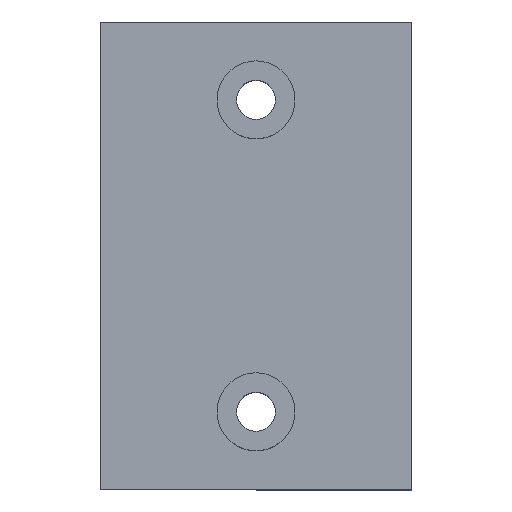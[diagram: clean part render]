
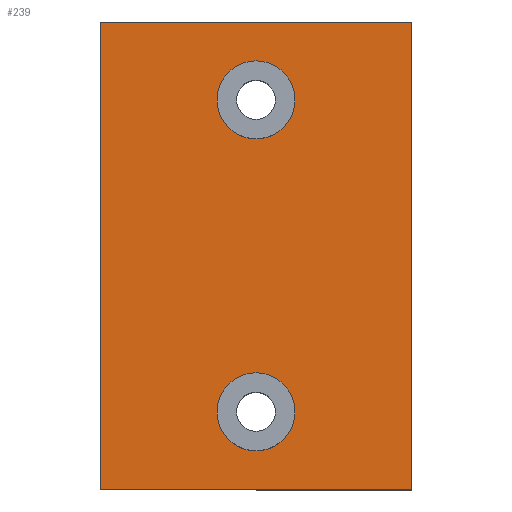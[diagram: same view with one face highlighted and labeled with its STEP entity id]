
A CAD part, top view. The second image highlights one B-rep face of the part: STEP entity #239.
In plain terms, the highlighted planar face has unit normal (0, 0, 1).
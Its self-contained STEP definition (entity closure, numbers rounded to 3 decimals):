
#50 = VERTEX_POINT('',#51);
#51 = CARTESIAN_POINT('',(32.,0.,3.));
#58 = PLANE('',#59);
#59 = AXIS2_PLACEMENT_3D('',#60,#61,#62);
#60 = CARTESIAN_POINT('',(32.,0.,0.));
#61 = DIRECTION('',(0.,1.,0.));
#62 = DIRECTION('',(0.,0.,1.));
#70 = PLANE('',#71);
#71 = AXIS2_PLACEMENT_3D('',#72,#73,#74);
#72 = CARTESIAN_POINT('',(32.,0.,0.));
#73 = DIRECTION('',(-1.,0.,0.));
#74 = DIRECTION('',(0.,0.,1.));
#111 = VERTEX_POINT('',#112);
#112 = CARTESIAN_POINT('',(0.,0.,3.));
#126 = PLANE('',#127);
#127 = AXIS2_PLACEMENT_3D('',#128,#129,#130);
#128 = CARTESIAN_POINT('',(0.,0.,0.));
#129 = DIRECTION('',(-1.,0.,0.));
#130 = DIRECTION('',(0.,0.,1.));
#138 = EDGE_CURVE('',#50,#111,#139,.T.);
#139 = SURFACE_CURVE('',#140,(#144,#151),.PCURVE_S1.);
#140 = LINE('',#141,#142);
#141 = CARTESIAN_POINT('',(32.,0.,3.));
#142 = VECTOR('',#143,1.);
#143 = DIRECTION('',(-1.,0.,0.));
#144 = PCURVE('',#58,#145);
#145 = DEFINITIONAL_REPRESENTATION('',(#146),#150);
#146 = LINE('',#147,#148);
#147 = CARTESIAN_POINT('',(3.,0.));
#148 = VECTOR('',#149,1.);
#149 = DIRECTION('',(0.,-1.));
#150 = ( GEOMETRIC_REPRESENTATION_CONTEXT(2) 
PARAMETRIC_REPRESENTATION_CONTEXT() REPRESENTATION_CONTEXT('2D SPACE',''
  ) );
#151 = PCURVE('',#152,#157);
#152 = PLANE('',#153);
#153 = AXIS2_PLACEMENT_3D('',#154,#155,#156);
#154 = CARTESIAN_POINT('',(32.,0.,3.));
#155 = DIRECTION('',(0.,0.,1.));
#156 = DIRECTION('',(0.,1.,0.));
#157 = DEFINITIONAL_REPRESENTATION('',(#158),#162);
#158 = LINE('',#159,#160);
#159 = CARTESIAN_POINT('',(0.,0.));
#160 = VECTOR('',#161,1.);
#161 = DIRECTION('',(0.,1.));
#162 = ( GEOMETRIC_REPRESENTATION_CONTEXT(2) 
PARAMETRIC_REPRESENTATION_CONTEXT() REPRESENTATION_CONTEXT('2D SPACE',''
  ) );
#191 = EDGE_CURVE('',#50,#192,#194,.T.);
#192 = VERTEX_POINT('',#193);
#193 = CARTESIAN_POINT('',(32.,48.,3.));
#194 = SURFACE_CURVE('',#195,(#199,#206),.PCURVE_S1.);
#195 = LINE('',#196,#197);
#196 = CARTESIAN_POINT('',(32.,0.,3.));
#197 = VECTOR('',#198,1.);
#198 = DIRECTION('',(0.,1.,0.));
#199 = PCURVE('',#70,#200);
#200 = DEFINITIONAL_REPRESENTATION('',(#201),#205);
#201 = LINE('',#202,#203);
#202 = CARTESIAN_POINT('',(3.,0.));
#203 = VECTOR('',#204,1.);
#204 = DIRECTION('',(0.,1.));
#205 = ( GEOMETRIC_REPRESENTATION_CONTEXT(2) 
PARAMETRIC_REPRESENTATION_CONTEXT() REPRESENTATION_CONTEXT('2D SPACE',''
  ) );
#206 = PCURVE('',#152,#207);
#207 = DEFINITIONAL_REPRESENTATION('',(#208),#212);
#208 = LINE('',#209,#210);
#209 = CARTESIAN_POINT('',(0.,0.));
#210 = VECTOR('',#211,1.);
#211 = DIRECTION('',(1.,0.));
#212 = ( GEOMETRIC_REPRESENTATION_CONTEXT(2) 
PARAMETRIC_REPRESENTATION_CONTEXT() REPRESENTATION_CONTEXT('2D SPACE',''
  ) );
#228 = PLANE('',#229);
#229 = AXIS2_PLACEMENT_3D('',#230,#231,#232);
#230 = CARTESIAN_POINT('',(32.,48.,0.));
#231 = DIRECTION('',(0.,1.,0.));
#232 = DIRECTION('',(0.,0.,1.));
#239 = ADVANCED_FACE('',(#240,#288,#319),#152,.T.);
#240 = FACE_BOUND('',#241,.T.);
#241 = EDGE_LOOP('',(#242,#243,#244,#267));
#242 = ORIENTED_EDGE('',*,*,#138,.F.);
#243 = ORIENTED_EDGE('',*,*,#191,.T.);
#244 = ORIENTED_EDGE('',*,*,#245,.T.);
#245 = EDGE_CURVE('',#192,#246,#248,.T.);
#246 = VERTEX_POINT('',#247);
#247 = CARTESIAN_POINT('',(0.,48.,3.));
#248 = SURFACE_CURVE('',#249,(#253,#260),.PCURVE_S1.);
#249 = LINE('',#250,#251);
#250 = CARTESIAN_POINT('',(32.,48.,3.));
#251 = VECTOR('',#252,1.);
#252 = DIRECTION('',(-1.,0.,0.));
#253 = PCURVE('',#152,#254);
#254 = DEFINITIONAL_REPRESENTATION('',(#255),#259);
#255 = LINE('',#256,#257);
#256 = CARTESIAN_POINT('',(48.,0.));
#257 = VECTOR('',#258,1.);
#258 = DIRECTION('',(0.,1.));
#259 = ( GEOMETRIC_REPRESENTATION_CONTEXT(2) 
PARAMETRIC_REPRESENTATION_CONTEXT() REPRESENTATION_CONTEXT('2D SPACE',''
  ) );
#260 = PCURVE('',#228,#261);
#261 = DEFINITIONAL_REPRESENTATION('',(#262),#266);
#262 = LINE('',#263,#264);
#263 = CARTESIAN_POINT('',(3.,0.));
#264 = VECTOR('',#265,1.);
#265 = DIRECTION('',(0.,-1.));
#266 = ( GEOMETRIC_REPRESENTATION_CONTEXT(2) 
PARAMETRIC_REPRESENTATION_CONTEXT() REPRESENTATION_CONTEXT('2D SPACE',''
  ) );
#267 = ORIENTED_EDGE('',*,*,#268,.F.);
#268 = EDGE_CURVE('',#111,#246,#269,.T.);
#269 = SURFACE_CURVE('',#270,(#274,#281),.PCURVE_S1.);
#270 = LINE('',#271,#272);
#271 = CARTESIAN_POINT('',(0.,0.,3.));
#272 = VECTOR('',#273,1.);
#273 = DIRECTION('',(0.,1.,0.));
#274 = PCURVE('',#152,#275);
#275 = DEFINITIONAL_REPRESENTATION('',(#276),#280);
#276 = LINE('',#277,#278);
#277 = CARTESIAN_POINT('',(0.,32.));
#278 = VECTOR('',#279,1.);
#279 = DIRECTION('',(1.,0.));
#280 = ( GEOMETRIC_REPRESENTATION_CONTEXT(2) 
PARAMETRIC_REPRESENTATION_CONTEXT() REPRESENTATION_CONTEXT('2D SPACE',''
  ) );
#281 = PCURVE('',#126,#282);
#282 = DEFINITIONAL_REPRESENTATION('',(#283),#287);
#283 = LINE('',#284,#285);
#284 = CARTESIAN_POINT('',(3.,0.));
#285 = VECTOR('',#286,1.);
#286 = DIRECTION('',(0.,1.));
#287 = ( GEOMETRIC_REPRESENTATION_CONTEXT(2) 
PARAMETRIC_REPRESENTATION_CONTEXT() REPRESENTATION_CONTEXT('2D SPACE',''
  ) );
#288 = FACE_BOUND('',#289,.T.);
#289 = EDGE_LOOP('',(#290));
#290 = ORIENTED_EDGE('',*,*,#291,.F.);
#291 = EDGE_CURVE('',#292,#292,#294,.T.);
#292 = VERTEX_POINT('',#293);
#293 = CARTESIAN_POINT('',(16.,10.,3.));
#294 = SURFACE_CURVE('',#295,(#300,#307),.PCURVE_S1.);
#295 = CIRCLE('',#296,2.);
#296 = AXIS2_PLACEMENT_3D('',#297,#298,#299);
#297 = CARTESIAN_POINT('',(16.,8.,3.));
#298 = DIRECTION('',(0.,-0.,1.));
#299 = DIRECTION('',(0.,1.,0.));
#300 = PCURVE('',#152,#301);
#301 = DEFINITIONAL_REPRESENTATION('',(#302),#306);
#302 = CIRCLE('',#303,2.);
#303 = AXIS2_PLACEMENT_2D('',#304,#305);
#304 = CARTESIAN_POINT('',(8.,16.));
#305 = DIRECTION('',(1.,0.));
#306 = ( GEOMETRIC_REPRESENTATION_CONTEXT(2) 
PARAMETRIC_REPRESENTATION_CONTEXT() REPRESENTATION_CONTEXT('2D SPACE',''
  ) );
#307 = PCURVE('',#308,#313);
#308 = CYLINDRICAL_SURFACE('',#309,2.);
#309 = AXIS2_PLACEMENT_3D('',#310,#311,#312);
#310 = CARTESIAN_POINT('',(16.,8.,0.));
#311 = DIRECTION('',(0.,0.,1.));
#312 = DIRECTION('',(0.,1.,0.));
#313 = DEFINITIONAL_REPRESENTATION('',(#314),#318);
#314 = LINE('',#315,#316);
#315 = CARTESIAN_POINT('',(0.,3.));
#316 = VECTOR('',#317,1.);
#317 = DIRECTION('',(1.,0.));
#318 = ( GEOMETRIC_REPRESENTATION_CONTEXT(2) 
PARAMETRIC_REPRESENTATION_CONTEXT() REPRESENTATION_CONTEXT('2D SPACE',''
  ) );
#319 = FACE_BOUND('',#320,.T.);
#320 = EDGE_LOOP('',(#321));
#321 = ORIENTED_EDGE('',*,*,#322,.F.);
#322 = EDGE_CURVE('',#323,#323,#325,.T.);
#323 = VERTEX_POINT('',#324);
#324 = CARTESIAN_POINT('',(16.,42.,3.));
#325 = SURFACE_CURVE('',#326,(#331,#338),.PCURVE_S1.);
#326 = CIRCLE('',#327,2.);
#327 = AXIS2_PLACEMENT_3D('',#328,#329,#330);
#328 = CARTESIAN_POINT('',(16.,40.,3.));
#329 = DIRECTION('',(0.,-0.,1.));
#330 = DIRECTION('',(0.,1.,0.));
#331 = PCURVE('',#152,#332);
#332 = DEFINITIONAL_REPRESENTATION('',(#333),#337);
#333 = CIRCLE('',#334,2.);
#334 = AXIS2_PLACEMENT_2D('',#335,#336);
#335 = CARTESIAN_POINT('',(40.,16.));
#336 = DIRECTION('',(1.,0.));
#337 = ( GEOMETRIC_REPRESENTATION_CONTEXT(2) 
PARAMETRIC_REPRESENTATION_CONTEXT() REPRESENTATION_CONTEXT('2D SPACE',''
  ) );
#338 = PCURVE('',#339,#344);
#339 = CYLINDRICAL_SURFACE('',#340,2.);
#340 = AXIS2_PLACEMENT_3D('',#341,#342,#343);
#341 = CARTESIAN_POINT('',(16.,40.,0.));
#342 = DIRECTION('',(0.,0.,1.));
#343 = DIRECTION('',(0.,1.,0.));
#344 = DEFINITIONAL_REPRESENTATION('',(#345),#349);
#345 = LINE('',#346,#347);
#346 = CARTESIAN_POINT('',(0.,3.));
#347 = VECTOR('',#348,1.);
#348 = DIRECTION('',(1.,0.));
#349 = ( GEOMETRIC_REPRESENTATION_CONTEXT(2) 
PARAMETRIC_REPRESENTATION_CONTEXT() REPRESENTATION_CONTEXT('2D SPACE',''
  ) );
